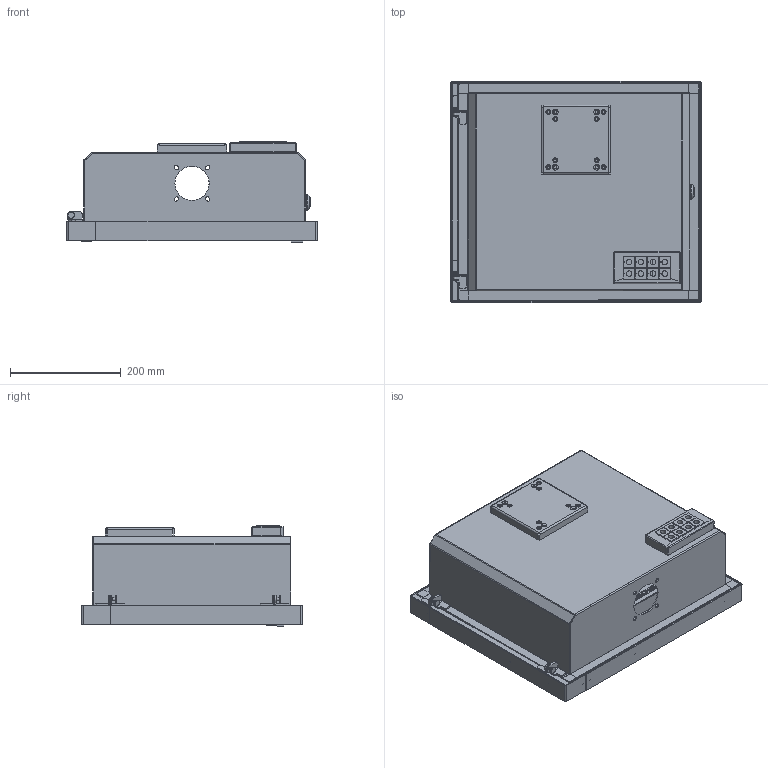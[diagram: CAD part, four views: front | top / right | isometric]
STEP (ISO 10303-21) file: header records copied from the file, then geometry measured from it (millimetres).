
FILE_DESCRIPTION(/* description */ (''),/* implementation_level */ '2;1');
FILE_NAME(/* name */ 'Z:\470_Messrechner\Vereinfachte Modelle\IDS110x.stp',/* time_stamp */ '2019-07-10T15:05:09+02:00',/* author */ ('PE'),/* organization */ (''),/* preprocessor_version */ 'ST-DEVELOPER v17',/* originating_system */ 'Autodesk Inventor 2018',/* authorisation */ '');
FILE_SCHEMA (('CONFIG_CONTROL_DESIGN'));
Products named in the file (3): MR715; Front MR715 komplett; Gehäuse Komplett MR715
Assembly tree (2 placements, depth 2):
  MR715
    Front MR715 komplett
    Gehäuse Komplett MR715
Bounding box: 453.28 x 400.2 x 182.33 mm (x, y, z)
Volume: 6127982.5 mm3; surface area: 1951817.7 mm2
Topology: 5 solids, 7 shells, 2427 faces, 6788 edges, 4400 vertices
Faces by surface type: plane 1572, cylinder 676, cone 71, bspline 46, sphere 40, torus 22
Full cylindrical faces by diameter (mm): 2.459 x2, 2.5 x6, 2.6 x3, 3 x51, 3.5 x30, 4.917 x8, 4.963 x2, 5.39 x2, 5.4 x2, 5.5 x9, 5.6 x2, 6 x2, 6.55 x6, 8.72 x8, 8.75 x8, 9 x1, 9.3 x1, 11.18 x8, 12 x3, 12.05 x1, 15.8 x1, 16.1 x1, 16.5 x1, 16.7 x1, 17 x1, 17.2 x1, 18 x1, 19.8 x1, 28 x1, 62 x2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
Entity records: 88019 total; most frequent: CARTESIAN_POINT 24332, ORIENTED_EDGE 13508, DIRECTION 12280, EDGE_CURVE 6754, VERTEX_POINT 4400, AXIS2_PLACEMENT_3D 4146, LINE 3988, VECTOR 3988
